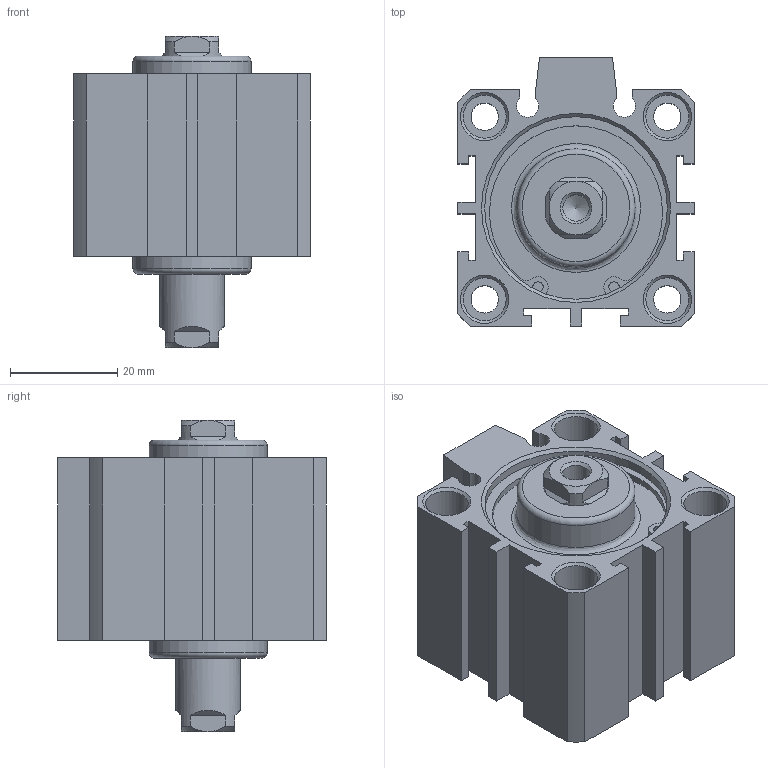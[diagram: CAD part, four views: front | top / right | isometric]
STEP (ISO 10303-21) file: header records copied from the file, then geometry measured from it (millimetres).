
FILE_DESCRIPTION((''),'2;1');
FILE_NAME('I:\3D電子目錄\氣缸\JDD\JDD\JDD32\JDD32x10.stp','2007-02-08T09:46:16',('662F206'),(''),'Autodesk Inventor 10','Autodesk Inventor 10','');
FILE_SCHEMA(('AUTOMOTIVE_DESIGN { 1 0 10303 214 1 1 1 1 }'));
Length unit declared in the file: millimetre
Products named in the file (3): JDD32; R 形環 35
Assembly tree (3 placements, depth 2):
  JDD32
    JDD32
    R 形環 35  x2
Bounding box: 44 x 50 x 58 mm (x, y, z)
Volume: 56869.2 mm3; surface area: 20111.8 mm2
Topology: 3 solids, 3 shells, 177 faces, 425 edges, 276 vertices
Faces by surface type: plane 94, cylinder 49, cone 22, bspline 10, torus 2
Full cylindrical faces by diameter (mm): 1.9 x4, 2.2 x2, 5.1 x4, 8 x8, 12 x1, 22 x2, 34 x4, 36 x2
Entity records: 4715 total; most frequent: CARTESIAN_POINT 983, DIRECTION 774, ORIENTED_EDGE 674, EDGE_CURVE 337, AXIS2_PLACEMENT_3D 292, EDGE_LOOP 248, VERTEX_POINT 247, VECTOR 190
